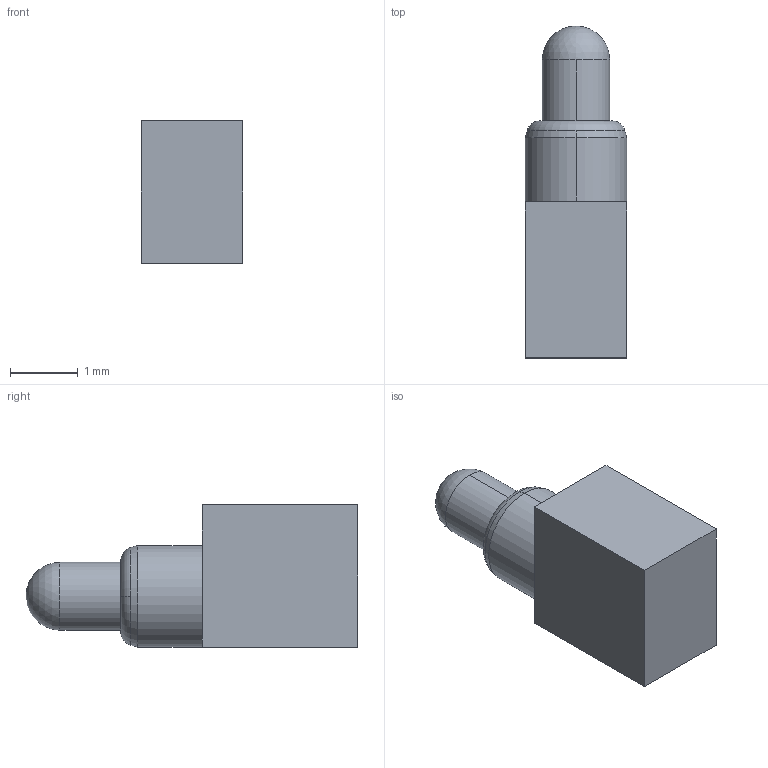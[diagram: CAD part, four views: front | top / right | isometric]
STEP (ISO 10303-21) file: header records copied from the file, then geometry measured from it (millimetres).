
FILE_DESCRIPTION (( 'STEP AP214' ), '1' );
FILE_NAME ('PF8JS-4.9.STEP', '2025-03-12T10:52:29', ( '' ), ( '' ), 'SwSTEP 2.0', 'SolidWorks 2024', '' );
FILE_SCHEMA (( 'AUTOMOTIVE_DESIGN' ));
Length unit declared in the file: millimetre
Products named in the file (1): PF8JS-4.9
Bounding box: 1.5 x 4.9 x 2.1 mm (x, y, z)
Volume: 10.3 mm3; surface area: 31.6 mm2
Topology: 1 solids, 1 shells, 18 faces, 41 edges, 25 vertices
Faces by surface type: plane 9, cylinder 4, cone 2, torus 2, sphere 1
Entity records: 516 total; most frequent: DIRECTION 95, CARTESIAN_POINT 82, ORIENTED_EDGE 78, EDGE_CURVE 39, AXIS2_PLACEMENT_3D 37, VERTEX_POINT 24, LINE 21, VECTOR 21
